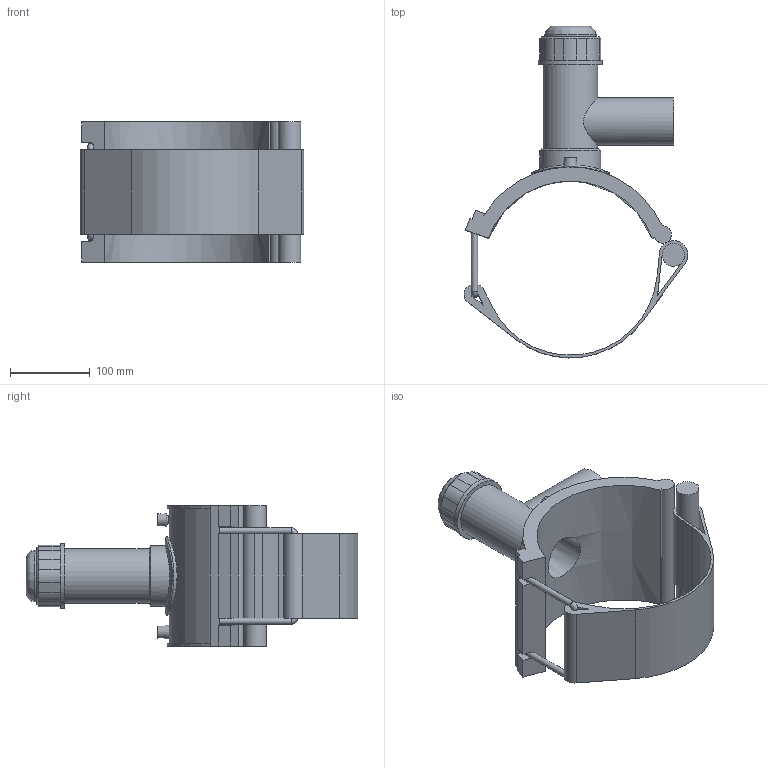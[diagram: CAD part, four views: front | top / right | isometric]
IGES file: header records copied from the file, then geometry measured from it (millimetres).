
Global section: file name: 5913BB03080020.ipt; native system: Autodesk Inventor 2019; preprocessor: unknown; author: KIM; date: 20210830.101041; units: millimetre
Bounding box: 280.96 x 416.78 x 176.02 mm (x, y, z)
Volume: 1731297.4 mm3; surface area: 357759.8 mm2
Topology: 2 solids, 2 shells, 124 faces, 314 edges, 195 vertices
Faces by surface type: plane 69, cylinder 29, revolution 12, cone 11, bspline 3
Full cylindrical faces by diameter (mm): 4 x2, 7.873 x2, 28.431 x1, 60.1 x1, 64.56 x1, 68.595 x1, 76.665 x1, 80.7 x1, 98.415 x1
